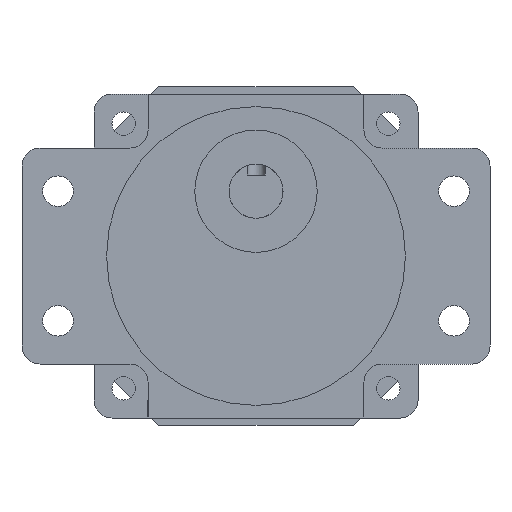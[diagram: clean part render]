
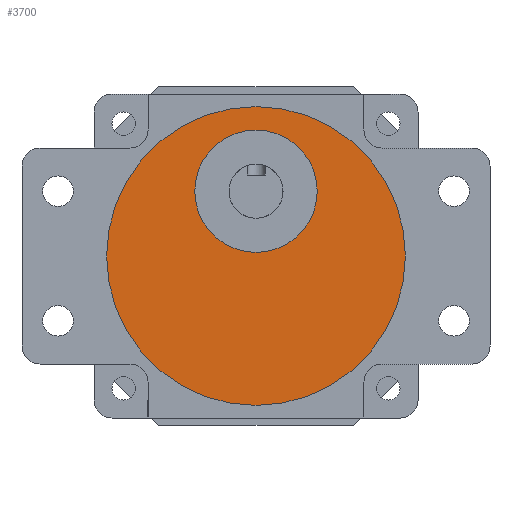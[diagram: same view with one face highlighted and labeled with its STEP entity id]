
A CAD part, front view. The second image highlights one B-rep face of the part: STEP entity #3700.
In plain terms, the highlighted planar face has unit normal (0, -1, 0).
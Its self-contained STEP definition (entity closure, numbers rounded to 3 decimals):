
#7 = DIRECTION ( 'NONE',  ( 0., -1., 0. ) ) ;
#13 = AXIS2_PLACEMENT_3D ( 'NONE', #3743, #1028, #622 ) ;
#142 = ORIENTED_EDGE ( 'NONE', *, *, #1661, .F. ) ;
#198 = VERTEX_POINT ( 'NONE', #3280 ) ;
#538 = CARTESIAN_POINT ( 'NONE',  ( 45., -63.5, 63. ) ) ;
#622 = DIRECTION ( 'NONE',  ( 0., 0., -1. ) ) ;
#653 = CIRCLE ( 'NONE', #862, 17. ) ;
#709 = FACE_OUTER_BOUND ( 'NONE', #2828, .T. ) ;
#737 = DIRECTION ( 'NONE',  ( 0., 0., -1. ) ) ;
#862 = AXIS2_PLACEMENT_3D ( 'NONE', #3953, #2214, #5717 ) ;
#986 = EDGE_CURVE ( 'NONE', #198, #4430, #3779, .T. ) ;
#1028 = DIRECTION ( 'NONE',  ( 0., -1., 0. ) ) ;
#1093 = EDGE_CURVE ( 'NONE', #1955, #4301, #3552, .T. ) ;
#1457 = ORIENTED_EDGE ( 'NONE', *, *, #5106, .T. ) ;
#1584 = AXIS2_PLACEMENT_3D ( 'NONE', #538, #2786, #5367 ) ;
#1589 = ORIENTED_EDGE ( 'NONE', *, *, #1093, .F. ) ;
#1610 = FACE_BOUND ( 'NONE', #3952, .T. ) ;
#1661 = EDGE_CURVE ( 'NONE', #4301, #1955, #653, .T. ) ;
#1955 = VERTEX_POINT ( 'NONE', #4607 ) ;
#2214 = DIRECTION ( 'NONE',  ( 0., -1., 0. ) ) ;
#2786 = DIRECTION ( 'NONE',  ( 0., -1., 0. ) ) ;
#2828 = EDGE_LOOP ( 'NONE', ( #4206, #1457 ) ) ;
#2840 = AXIS2_PLACEMENT_3D ( 'NONE', #3121, #7, #3089 ) ;
#3011 = CARTESIAN_POINT ( 'NONE',  ( 45., -63.5, 45. ) ) ;
#3089 = DIRECTION ( 'NONE',  ( 0., 0., -1. ) ) ;
#3121 = CARTESIAN_POINT ( 'NONE',  ( 45., -63.5, 45. ) ) ;
#3280 = CARTESIAN_POINT ( 'NONE',  ( 45., -63.5, 3.5 ) ) ;
#3435 = CARTESIAN_POINT ( 'NONE',  ( 45., -63.5, 86.5 ) ) ;
#3445 = DIRECTION ( 'NONE',  ( 0., -1., 0. ) ) ;
#3552 = CIRCLE ( 'NONE', #1584, 17. ) ;
#3700 = ADVANCED_FACE ( 'NONE', ( #1610, #709 ), #3886, .T. ) ;
#3743 = CARTESIAN_POINT ( 'NONE',  ( 45., -63.5, 45. ) ) ;
#3779 = CIRCLE ( 'NONE', #2840, 41.5 ) ;
#3886 = PLANE ( 'NONE',  #4835 ) ;
#3952 = EDGE_LOOP ( 'NONE', ( #142, #1589 ) ) ;
#3953 = CARTESIAN_POINT ( 'NONE',  ( 45., -63.5, 63. ) ) ;
#4206 = ORIENTED_EDGE ( 'NONE', *, *, #986, .T. ) ;
#4301 = VERTEX_POINT ( 'NONE', #4726 ) ;
#4430 = VERTEX_POINT ( 'NONE', #3435 ) ;
#4607 = CARTESIAN_POINT ( 'NONE',  ( 45., -63.5, 46. ) ) ;
#4726 = CARTESIAN_POINT ( 'NONE',  ( 45., -63.5, 80. ) ) ;
#4835 = AXIS2_PLACEMENT_3D ( 'NONE', #3011, #3445, #737 ) ;
#5106 = EDGE_CURVE ( 'NONE', #4430, #198, #5483, .T. ) ;
#5367 = DIRECTION ( 'NONE',  ( 0., 0., -1. ) ) ;
#5483 = CIRCLE ( 'NONE', #13, 41.5 ) ;
#5717 = DIRECTION ( 'NONE',  ( 0., 0., -1. ) ) ;
